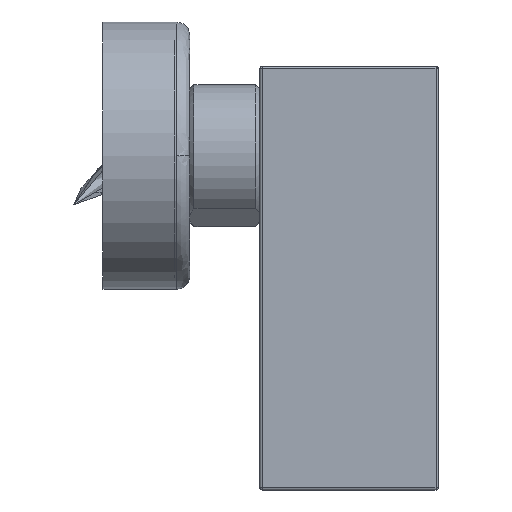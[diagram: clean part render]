
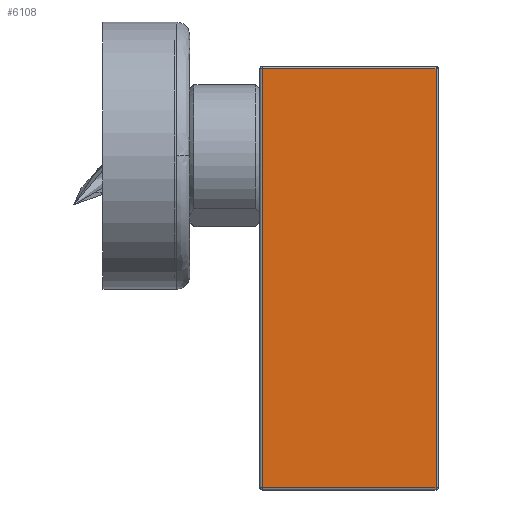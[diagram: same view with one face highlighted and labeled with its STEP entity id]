
A CAD part, left-side view. The second image highlights one B-rep face of the part: STEP entity #6108.
In plain terms, the highlighted planar face has unit normal (-1, 0, 0).
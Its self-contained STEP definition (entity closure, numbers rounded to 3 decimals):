
#449 = DIRECTION ( 'NONE',  ( 0., -1., 0. ) ) ;
#677 = CARTESIAN_POINT ( 'NONE',  ( 10879.007, 962.916, -94.5 ) ) ;
#1821 = VECTOR ( 'NONE', #449, 1000. ) ;
#2097 = CARTESIAN_POINT ( 'NONE',  ( 10879.007, 923.916, 0. ) ) ;
#2114 = LINE ( 'NONE', #10949, #7835 ) ;
#2301 = CARTESIAN_POINT ( 'NONE',  ( 10879.007, 923.416, 0. ) ) ;
#2974 = CARTESIAN_POINT ( 'NONE',  ( 10879.007, 923.916, -94.5 ) ) ;
#2996 = VERTEX_POINT ( 'NONE', #6372 ) ;
#4060 = DIRECTION ( 'NONE',  ( 0., 1., 0. ) ) ;
#4071 = PLANE ( 'NONE',  #4177 ) ;
#4167 = CARTESIAN_POINT ( 'NONE',  ( 10879.007, 923.416, -0.5 ) ) ;
#4176 = DIRECTION ( 'NONE',  ( -1., 0., 0. ) ) ;
#4177 = AXIS2_PLACEMENT_3D ( 'NONE', #2301, #4176, #5879 ) ;
#4621 = EDGE_CURVE ( 'NONE', #10271, #7594, #10347, .T. ) ;
#4880 = FACE_OUTER_BOUND ( 'NONE', #7401, .T. ) ;
#5048 = LINE ( 'NONE', #4167, #9142 ) ;
#5601 = EDGE_CURVE ( 'NONE', #7594, #2996, #10212, .T. ) ;
#5619 = ORIENTED_EDGE ( 'NONE', *, *, #6994, .T. ) ;
#5879 = DIRECTION ( 'NONE',  ( 0., 1., 0. ) ) ;
#6108 = ADVANCED_FACE ( 'NONE', ( #4880 ), #4071, .T. ) ;
#6372 = CARTESIAN_POINT ( 'NONE',  ( 10879.007, 923.916, -0.5 ) ) ;
#6994 = EDGE_CURVE ( 'NONE', #2996, #10204, #5048, .T. ) ;
#7401 = EDGE_LOOP ( 'NONE', ( #8563, #8352, #5619, #9397 ) ) ;
#7594 = VERTEX_POINT ( 'NONE', #2974 ) ;
#7835 = VECTOR ( 'NONE', #8453, 1000. ) ;
#8352 = ORIENTED_EDGE ( 'NONE', *, *, #5601, .T. ) ;
#8453 = DIRECTION ( 'NONE',  ( 0., 0., -1. ) ) ;
#8563 = ORIENTED_EDGE ( 'NONE', *, *, #4621, .T. ) ;
#8564 = CARTESIAN_POINT ( 'NONE',  ( 10879.007, 923.416, -94.5 ) ) ;
#9142 = VECTOR ( 'NONE', #4060, 1000. ) ;
#9335 = DIRECTION ( 'NONE',  ( 0., 0., 1. ) ) ;
#9397 = ORIENTED_EDGE ( 'NONE', *, *, #10284, .T. ) ;
#10204 = VERTEX_POINT ( 'NONE', #10718 ) ;
#10212 = LINE ( 'NONE', #2097, #10773 ) ;
#10271 = VERTEX_POINT ( 'NONE', #677 ) ;
#10284 = EDGE_CURVE ( 'NONE', #10204, #10271, #2114, .T. ) ;
#10347 = LINE ( 'NONE', #8564, #1821 ) ;
#10718 = CARTESIAN_POINT ( 'NONE',  ( 10879.007, 962.916, -0.5 ) ) ;
#10773 = VECTOR ( 'NONE', #9335, 1000. ) ;
#10949 = CARTESIAN_POINT ( 'NONE',  ( 10879.007, 962.916, 0. ) ) ;
